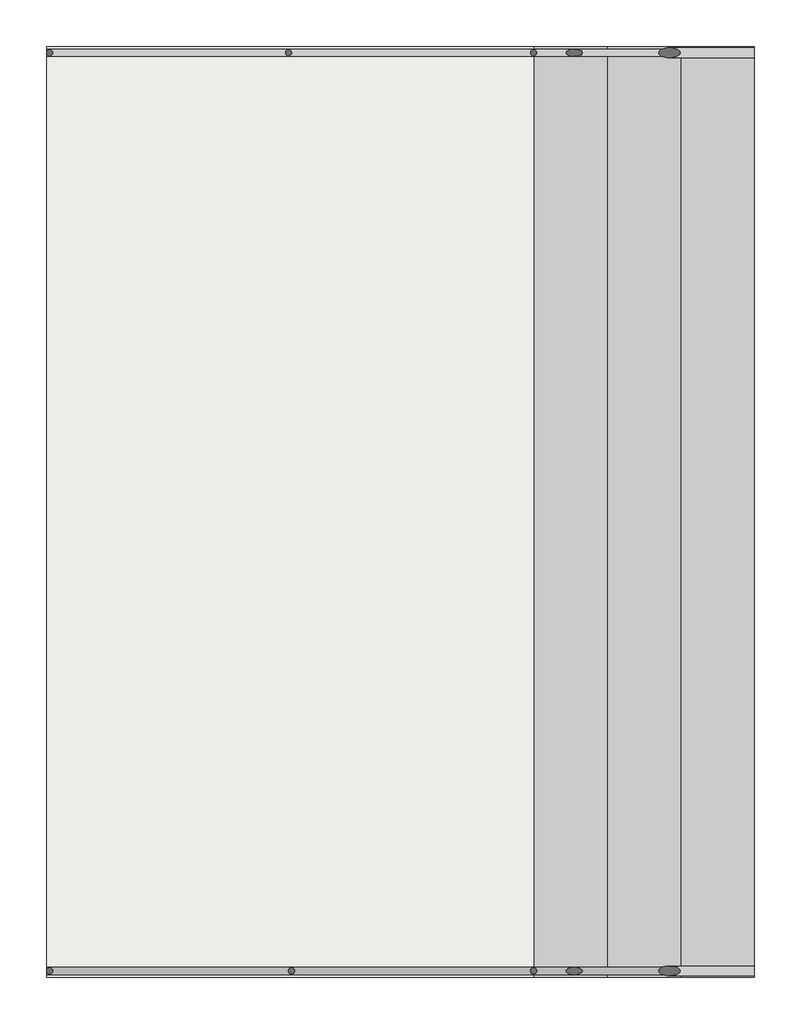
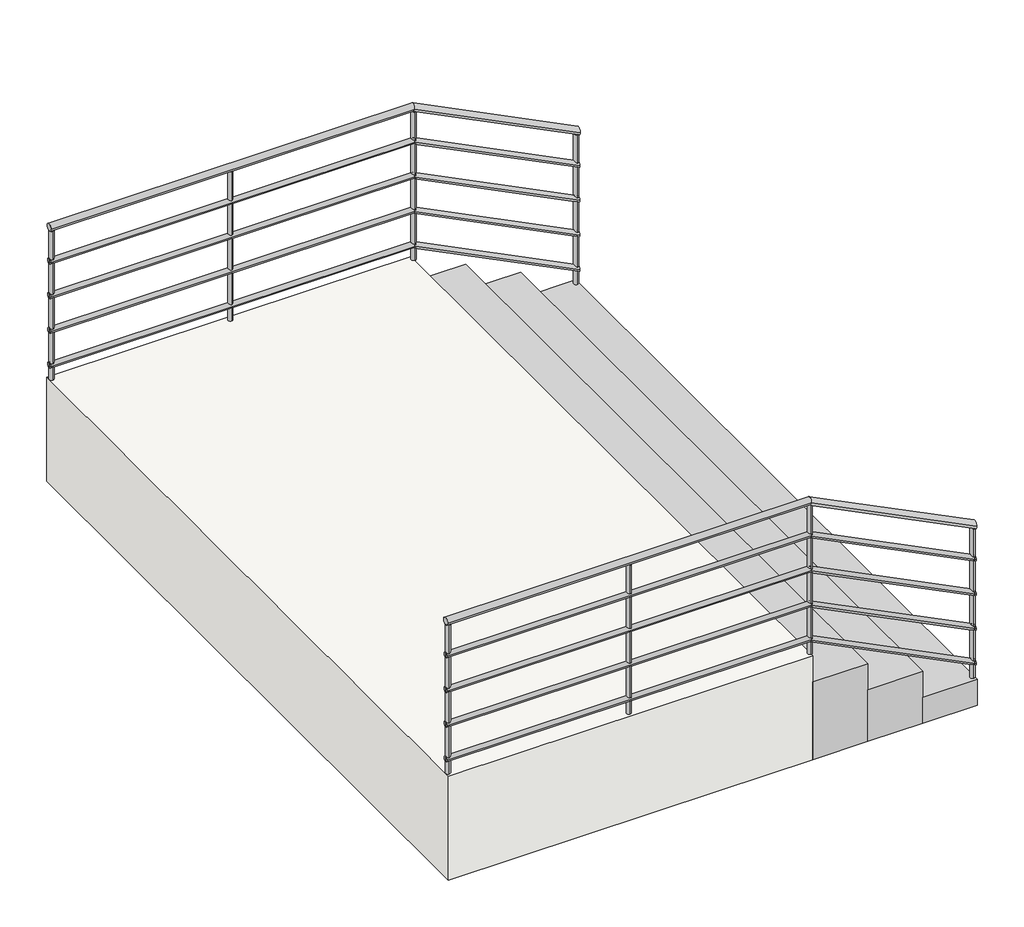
# One storey, part 2 of 2: 2 railings, 1 slab, 1 stair flight.
"""IFC4 building model written with IfcOpenShell, lengths in millimetres."""

from ifc_helpers import new_model, si_unit, point, frame, frame_2d, origin, place, context, project, spatial, circle_curve, ellipse_curve, trimmed, segment, composite_curve, outline, extrude, faceted_brep, element, save
from ifc_brep_helpers import plane_surface, cylinder_surface, advanced_brep

model = new_model("IFC4")

# Units and contexts
model_context = context("Model", 3, world=origin())
ifc_project = project(units=[si_unit("LENGTHUNIT", "METRE", prefix="MILLI")], contexts=[model_context])

# Site, building, storey
site = spatial("IfcSite", under=ifc_project)
building = spatial("IfcBuilding", under=site)
storey = spatial("IfcBuildingStorey", under=building, Name="标高 2", Elevation=2600.0)

# Railings
placement = place(None, origin())
element("IfcRailing", 1, ObjectType="900mm 圆管", at=placement, inside=storey, context=model_context, shape_type="SolidModel", body=[
    advanced_brep(
    [(13918.2324742, 1508.7274984, 4080.0), (13918.2324742, 1468.7274984, 4080.0), (15901.7924668, 1468.7274984, 4080.0), (15901.7924668, 1508.7274984, 4080.0), (16806.5138263, 1508.7274984, 3627.6393202), (16806.5138263, 1468.7274984, 3627.6393202)],
    [
        (0, 1, circle_curve(frame((13918.2324742, 1488.7274984, 4080.0), z_axis=(-1.0, 0.0, 0.0), x_axis=(0.0, -1.0, 0.0)), 20.0)),
        (1, 0, circle_curve(frame((13918.2324742, 1488.7274984, 4080.0), z_axis=(-1.0, 0.0, 0.0), x_axis=(0.0, -1.0, 0.0)), 20.0)),
        (2, 3, ellipse_curve(frame((15901.7924668, 1488.7274984, 4080.0), z_axis=(-0.9732489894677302, 0.0, 0.2297529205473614), x_axis=(0.22975292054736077, 0.0, 0.9732489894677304)), 20.5497259, 20.0)),
        (3, 0),
        (1, 2),
        (3, 2, ellipse_curve(frame((15901.7924668, 1488.7274984, 4080.0), z_axis=(-0.9732489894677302, 0.0, 0.2297529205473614), x_axis=(0.22975292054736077, 0.0, 0.9732489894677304)), 20.5497259, 20.0)),
        (4, 5, ellipse_curve(frame((16806.5138263, 1488.7274984, 3627.6393202), z_axis=(1.0, 0.0, 0.0), x_axis=(0.0, 0.0, -1.0)), 22.3606798, 20.0)),
        (5, 4, ellipse_curve(frame((16806.5138263, 1488.7274984, 3627.6393202), z_axis=(1.0, 0.0, 0.0), x_axis=(0.0, 0.0, -1.0)), 22.3606798, 20.0)),
        (4, 3),
        (2, 5),
    ],
    [
        plane_surface(frame((13918.2324742, 1488.7274984, 4100.0), z_axis=(-1.0, 0.0, 0.0), x_axis=(0.0, -1.0, 0.0))),
        cylinder_surface(frame((15906.5138263, 1488.7274984, 4080.0), z_axis=(1.0, 0.0, 0.0), x_axis=(0.0, -1.0, 0.0)), 20.0),
        plane_surface(frame((16806.5138263, 1488.7274984, 3650.0), z_axis=(1.0, 0.0, 0.0), x_axis=(0.0, -1.0, 0.0))),
        cylinder_surface(frame((16797.5695544, 1488.7274984, 3632.1114562), z_axis=(0.8944271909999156, 0.0, -0.44721359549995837), x_axis=(0.0, -1.0, 0.0)), 20.0),
    ],
    [
        (0, [[1, 2]]),
        (1, [[3, 4, -2, 5]]),
        (1, [[6, -5, -1, -4]]),
        (2, [[7, 8]]),
        (3, [[-7, 9, -3, 10]]),
        (3, [[-8, -10, -6, -9]]),
    ],
),
    advanced_brep(
    [(13918.2324742, 1503.7274984, 3885.0), (13918.2324742, 1473.7274984, 3885.0), (15906.5138263, 1503.7274984, 3885.0), (15906.5138263, 1473.7274984, 3885.0)],
    [
        (0, 1, circle_curve(frame((13918.2324742, 1488.7274984, 3885.0), z_axis=(-1.0, 0.0, 0.0), x_axis=(0.0, -1.0, 0.0)), 15.0)),
        (1, 0, circle_curve(frame((13918.2324742, 1488.7274984, 3885.0), z_axis=(-1.0, 0.0, 0.0), x_axis=(0.0, -1.0, 0.0)), 15.0)),
        (2, 3, circle_curve(frame((15906.5138263, 1488.7274984, 3885.0), z_axis=(1.0, 0.0, 0.0), x_axis=(0.0, -1.0, 0.0)), 15.0)),
        (3, 2, circle_curve(frame((15906.5138263, 1488.7274984, 3885.0), z_axis=(1.0, 0.0, 0.0), x_axis=(0.0, -1.0, 0.0)), 15.0)),
        (0, 2),
        (3, 1),
    ],
    [
        plane_surface(frame((13918.2324742, 1488.7274984, 3900.0), z_axis=(-1.0, 0.0, 0.0), x_axis=(0.0, 1.0, 0.0))),
        plane_surface(frame((15906.5138263, 1488.7274984, 3900.0), z_axis=(1.0, 0.0, 0.0), x_axis=(0.0, 1.0, 0.0))),
        cylinder_surface(frame((13918.2324742, 1488.7274984, 3885.0), z_axis=(-1.0, 0.0, 0.0), x_axis=(0.0, -1.0, 0.0)), 15.0),
    ],
    [
        (0, [[1, 2]]),
        (1, [[3, 4]]),
        (2, [[-1, 5, -4, 6]]),
        (2, [[-2, -6, -3, -5]]),
    ],
),
    advanced_brep(
    [(15906.5138263, 1503.7274984, 3883.2294902), (15906.5138263, 1473.7274984, 3883.2294902), (16806.5138263, 1503.7274984, 3433.2294902), (16806.5138263, 1473.7274984, 3433.2294902)],
    [
        (0, 1, ellipse_curve(frame((15906.5138263, 1488.7274984, 3883.2294902), z_axis=(-1.0, 0.0, 0.0), x_axis=(0.0, 0.0, 1.0)), 16.7705098, 15.0)),
        (1, 0, ellipse_curve(frame((15906.5138263, 1488.7274984, 3883.2294902), z_axis=(-1.0, 0.0, 0.0), x_axis=(0.0, 0.0, 1.0)), 16.7705098, 15.0)),
        (2, 3, ellipse_curve(frame((16806.5138263, 1488.7274984, 3433.2294902), z_axis=(1.0, 0.0, 0.0), x_axis=(0.0, 0.0, 1.0)), 16.7705098, 15.0)),
        (3, 2, ellipse_curve(frame((16806.5138263, 1488.7274984, 3433.2294902), z_axis=(1.0, 0.0, 0.0), x_axis=(0.0, 0.0, 1.0)), 16.7705098, 15.0)),
        (0, 2),
        (3, 1),
    ],
    [
        plane_surface(frame((15906.5138263, 1488.7274984, 3900.0), z_axis=(-1.0, 0.0, 0.0), x_axis=(0.0, 1.0, 0.0))),
        plane_surface(frame((16806.5138263, 1488.7274984, 3450.0), z_axis=(1.0, 0.0, 0.0), x_axis=(0.0, 1.0, 0.0))),
        cylinder_surface(frame((15899.8056224, 1488.7274984, 3886.5835921), z_axis=(-0.8944271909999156, 0.0, 0.44721359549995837), x_axis=(0.0, -1.0, 0.0)), 15.0),
    ],
    [
        (0, [[1, 2]]),
        (1, [[3, 4]]),
        (2, [[-1, 5, -4, 6]]),
        (2, [[-2, -6, -3, -5]]),
    ],
),
    advanced_brep(
    [(13918.2324742, 1503.7274984, 3685.0), (13918.2324742, 1473.7274984, 3685.0), (15906.5138263, 1503.7274984, 3685.0), (15906.5138263, 1473.7274984, 3685.0)],
    [
        (0, 1, circle_curve(frame((13918.2324742, 1488.7274984, 3685.0), z_axis=(-1.0, 0.0, 0.0), x_axis=(0.0, -1.0, 0.0)), 15.0)),
        (1, 0, circle_curve(frame((13918.2324742, 1488.7274984, 3685.0), z_axis=(-1.0, 0.0, 0.0), x_axis=(0.0, -1.0, 0.0)), 15.0)),
        (2, 3, circle_curve(frame((15906.5138263, 1488.7274984, 3685.0), z_axis=(1.0, 0.0, 0.0), x_axis=(0.0, -1.0, 0.0)), 15.0)),
        (3, 2, circle_curve(frame((15906.5138263, 1488.7274984, 3685.0), z_axis=(1.0, 0.0, 0.0), x_axis=(0.0, -1.0, 0.0)), 15.0)),
        (0, 2),
        (3, 1),
    ],
    [
        plane_surface(frame((13918.2324742, 1488.7274984, 3700.0), z_axis=(-1.0, 0.0, 0.0), x_axis=(0.0, 1.0, 0.0))),
        plane_surface(frame((15906.5138263, 1488.7274984, 3700.0), z_axis=(1.0, 0.0, 0.0), x_axis=(0.0, 1.0, 0.0))),
        cylinder_surface(frame((13918.2324742, 1488.7274984, 3685.0), z_axis=(-1.0, 0.0, 0.0), x_axis=(0.0, -1.0, 0.0)), 15.0),
    ],
    [
        (0, [[1, 2]]),
        (1, [[3, 4]]),
        (2, [[-1, 5, -4, 6]]),
        (2, [[-2, -6, -3, -5]]),
    ],
),
    advanced_brep(
    [(15906.5138263, 1503.7274984, 3683.2294902), (15906.5138263, 1473.7274984, 3683.2294902), (16806.5138263, 1503.7274984, 3233.2294902), (16806.5138263, 1473.7274984, 3233.2294902)],
    [
        (0, 1, ellipse_curve(frame((15906.5138263, 1488.7274984, 3683.2294902), z_axis=(-1.0, 0.0, 0.0), x_axis=(0.0, 0.0, 1.0)), 16.7705098, 15.0)),
        (1, 0, ellipse_curve(frame((15906.5138263, 1488.7274984, 3683.2294902), z_axis=(-1.0, 0.0, 0.0), x_axis=(0.0, 0.0, 1.0)), 16.7705098, 15.0)),
        (2, 3, ellipse_curve(frame((16806.5138263, 1488.7274984, 3233.2294902), z_axis=(1.0, 0.0, 0.0), x_axis=(0.0, 0.0, 1.0)), 16.7705098, 15.0)),
        (3, 2, ellipse_curve(frame((16806.5138263, 1488.7274984, 3233.2294902), z_axis=(1.0, 0.0, 0.0), x_axis=(0.0, 0.0, 1.0)), 16.7705098, 15.0)),
        (0, 2),
        (3, 1),
    ],
    [
        plane_surface(frame((15906.5138263, 1488.7274984, 3700.0), z_axis=(-1.0, 0.0, 0.0), x_axis=(0.0, 1.0, 0.0))),
        plane_surface(frame((16806.5138263, 1488.7274984, 3250.0), z_axis=(1.0, 0.0, 0.0), x_axis=(0.0, 1.0, 0.0))),
        cylinder_surface(frame((15899.8056224, 1488.7274984, 3686.5835921), z_axis=(-0.8944271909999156, 0.0, 0.44721359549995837), x_axis=(0.0, -1.0, 0.0)), 15.0),
    ],
    [
        (0, [[1, 2]]),
        (1, [[3, 4]]),
        (2, [[-1, 5, -4, 6]]),
        (2, [[-2, -6, -3, -5]]),
    ],
),
    advanced_brep(
    [(13918.2324742, 1503.7274984, 3485.0), (13918.2324742, 1473.7274984, 3485.0), (15906.5138263, 1503.7274984, 3485.0), (15906.5138263, 1473.7274984, 3485.0)],
    [
        (0, 1, circle_curve(frame((13918.2324742, 1488.7274984, 3485.0), z_axis=(-1.0, 0.0, 0.0), x_axis=(0.0, -1.0, 0.0)), 15.0)),
        (1, 0, circle_curve(frame((13918.2324742, 1488.7274984, 3485.0), z_axis=(-1.0, 0.0, 0.0), x_axis=(0.0, -1.0, 0.0)), 15.0)),
        (2, 3, circle_curve(frame((15906.5138263, 1488.7274984, 3485.0), z_axis=(1.0, 0.0, 0.0), x_axis=(0.0, -1.0, 0.0)), 15.0)),
        (3, 2, circle_curve(frame((15906.5138263, 1488.7274984, 3485.0), z_axis=(1.0, 0.0, 0.0), x_axis=(0.0, -1.0, 0.0)), 15.0)),
        (0, 2),
        (3, 1),
    ],
    [
        plane_surface(frame((13918.2324742, 1488.7274984, 3500.0), z_axis=(-1.0, 0.0, 0.0), x_axis=(0.0, 1.0, 0.0))),
        plane_surface(frame((15906.5138263, 1488.7274984, 3500.0), z_axis=(1.0, 0.0, 0.0), x_axis=(0.0, 1.0, 0.0))),
        cylinder_surface(frame((13918.2324742, 1488.7274984, 3485.0), z_axis=(-1.0, 0.0, 0.0), x_axis=(0.0, -1.0, 0.0)), 15.0),
    ],
    [
        (0, [[1, 2]]),
        (1, [[3, 4]]),
        (2, [[-1, 5, -4, 6]]),
        (2, [[-2, -6, -3, -5]]),
    ],
),
    advanced_brep(
    [(15906.5138263, 1503.7274984, 3483.2294902), (15906.5138263, 1473.7274984, 3483.2294902), (16806.5138263, 1503.7274984, 3033.2294902), (16806.5138263, 1473.7274984, 3033.2294902)],
    [
        (0, 1, ellipse_curve(frame((15906.5138263, 1488.7274984, 3483.2294902), z_axis=(-1.0, 0.0, 0.0), x_axis=(0.0, 0.0, 1.0)), 16.7705098, 15.0)),
        (1, 0, ellipse_curve(frame((15906.5138263, 1488.7274984, 3483.2294902), z_axis=(-1.0, 0.0, 0.0), x_axis=(0.0, 0.0, 1.0)), 16.7705098, 15.0)),
        (2, 3, ellipse_curve(frame((16806.5138263, 1488.7274984, 3033.2294902), z_axis=(1.0, 0.0, 0.0), x_axis=(0.0, 0.0, 1.0)), 16.7705098, 15.0)),
        (3, 2, ellipse_curve(frame((16806.5138263, 1488.7274984, 3033.2294902), z_axis=(1.0, 0.0, 0.0), x_axis=(0.0, 0.0, 1.0)), 16.7705098, 15.0)),
        (0, 2),
        (3, 1),
    ],
    [
        plane_surface(frame((15906.5138263, 1488.7274984, 3500.0), z_axis=(-1.0, 0.0, 0.0), x_axis=(0.0, 1.0, 0.0))),
        plane_surface(frame((16806.5138263, 1488.7274984, 3050.0), z_axis=(1.0, 0.0, 0.0), x_axis=(0.0, 1.0, 0.0))),
        cylinder_surface(frame((15899.8056224, 1488.7274984, 3486.5835921), z_axis=(-0.8944271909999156, 0.0, 0.44721359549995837), x_axis=(0.0, -1.0, 0.0)), 15.0),
    ],
    [
        (0, [[1, 2]]),
        (1, [[3, 4]]),
        (2, [[-1, 5, -4, 6]]),
        (2, [[-2, -6, -3, -5]]),
    ],
),
    advanced_brep(
    [(13918.2324742, 1503.7274984, 3285.0), (13918.2324742, 1473.7274984, 3285.0), (15906.5138263, 1503.7274984, 3285.0), (15906.5138263, 1473.7274984, 3285.0)],
    [
        (0, 1, circle_curve(frame((13918.2324742, 1488.7274984, 3285.0), z_axis=(-1.0, 0.0, 0.0), x_axis=(0.0, -1.0, 0.0)), 15.0)),
        (1, 0, circle_curve(frame((13918.2324742, 1488.7274984, 3285.0), z_axis=(-1.0, 0.0, 0.0), x_axis=(0.0, -1.0, 0.0)), 15.0)),
        (2, 3, circle_curve(frame((15906.5138263, 1488.7274984, 3285.0), z_axis=(1.0, 0.0, 0.0), x_axis=(0.0, -1.0, 0.0)), 15.0)),
        (3, 2, circle_curve(frame((15906.5138263, 1488.7274984, 3285.0), z_axis=(1.0, 0.0, 0.0), x_axis=(0.0, -1.0, 0.0)), 15.0)),
        (0, 2),
        (3, 1),
    ],
    [
        plane_surface(frame((13918.2324742, 1488.7274984, 3300.0), z_axis=(-1.0, 0.0, 0.0), x_axis=(0.0, 1.0, 0.0))),
        plane_surface(frame((15906.5138263, 1488.7274984, 3300.0), z_axis=(1.0, 0.0, 0.0), x_axis=(0.0, 1.0, 0.0))),
        cylinder_surface(frame((13918.2324742, 1488.7274984, 3285.0), z_axis=(-1.0, 0.0, 0.0), x_axis=(0.0, -1.0, 0.0)), 15.0),
    ],
    [
        (0, [[1, 2]]),
        (1, [[3, 4]]),
        (2, [[-1, 5, -4, 6]]),
        (2, [[-2, -6, -3, -5]]),
    ],
),
    advanced_brep(
    [(15906.5138263, 1503.7274984, 3283.2294902), (15906.5138263, 1473.7274984, 3283.2294902), (16806.5138263, 1503.7274984, 2833.2294902), (16806.5138263, 1473.7274984, 2833.2294902)],
    [
        (0, 1, ellipse_curve(frame((15906.5138263, 1488.7274984, 3283.2294902), z_axis=(-1.0, 0.0, 0.0), x_axis=(0.0, 0.0, 1.0)), 16.7705098, 15.0)),
        (1, 0, ellipse_curve(frame((15906.5138263, 1488.7274984, 3283.2294902), z_axis=(-1.0, 0.0, 0.0), x_axis=(0.0, 0.0, 1.0)), 16.7705098, 15.0)),
        (2, 3, ellipse_curve(frame((16806.5138263, 1488.7274984, 2833.2294902), z_axis=(1.0, 0.0, 0.0), x_axis=(0.0, 0.0, 1.0)), 16.7705098, 15.0)),
        (3, 2, ellipse_curve(frame((16806.5138263, 1488.7274984, 2833.2294902), z_axis=(1.0, 0.0, 0.0), x_axis=(0.0, 0.0, 1.0)), 16.7705098, 15.0)),
        (0, 2),
        (3, 1),
    ],
    [
        plane_surface(frame((15906.5138263, 1488.7274984, 3300.0), z_axis=(-1.0, 0.0, 0.0), x_axis=(0.0, 1.0, 0.0))),
        plane_surface(frame((16806.5138263, 1488.7274984, 2850.0), z_axis=(1.0, 0.0, 0.0), x_axis=(0.0, 1.0, 0.0))),
        cylinder_surface(frame((15899.8056224, 1488.7274984, 3286.5835921), z_axis=(-0.8944271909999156, 0.0, 0.44721359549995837), x_axis=(0.0, -1.0, 0.0)), 15.0),
    ],
    [
        (0, [[1, 2]]),
        (1, [[3, 4]]),
        (2, [[-1, 5, -4, 6]]),
        (2, [[-2, -6, -3, -5]]),
    ],
),
    extrude(outline(composite_curve([segment(trimmed(circle_curve(frame_2d((14918.2324742, 1488.7274984)), 12.5), [point((14918.2324742, 1501.2274984))], [point((14918.2324742, 1476.2274984))], False, "CARTESIAN"), True, "CONTINUOUS"), segment(trimmed(circle_curve(frame_2d((14918.2324742, 1488.7274984)), 12.5), [point((14918.2324742, 1476.2274984))], [point((14918.2324742, 1501.2274984))], False, "CARTESIAN"), True, "CONTINUOUS")], self_intersect=False)), frame((0.0, 0.0, 3200.0), z_axis=(0.0, 0.0, 1.0), x_axis=(1.0, 0.0, 0.0)), (0.0, 0.0, 1.0), 860.0),
    extrude(outline(composite_curve([segment(trimmed(circle_curve(frame_2d((15906.5138263, 1488.7274984)), 12.5), [point((15906.5138263, 1501.2274984))], [point((15906.5138263, 1476.2274984))], False, "CARTESIAN"), True, "CONTINUOUS"), segment(trimmed(circle_curve(frame_2d((15906.5138263, 1488.7274984)), 12.5), [point((15906.5138263, 1476.2274984))], [point((15906.5138263, 1501.2274984))], False, "CARTESIAN"), True, "CONTINUOUS")], self_intersect=False)), frame((0.0, 0.0, 3200.0), z_axis=(0.0, 0.0, 1.0), x_axis=(1.0, 0.0, 0.0)), (0.0, 0.0, 1.0), 860.0),
    advanced_brep(
    [(16794.0138263, 1476.2274984, 3611.5286405), (16794.0138263, 1476.2274984, 2750.0), (16794.0138263, 1501.2274984, 2750.0), (16794.0138263, 1501.2274984, 3611.5286405)],
    [
        (0, 1),
        (1, 2, circle_curve(frame((16794.0138263, 1488.7274984, 2750.0), z_axis=(0.0, 0.0, 1.0), x_axis=(0.0, 1.0, 0.0)), 12.5)),
        (2, 3),
        (3, 0, ellipse_curve(frame((16794.0138263, 1488.7274984, 3611.5286405), z_axis=(-0.44721359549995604, 0.0, -0.894427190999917), x_axis=(-0.8944271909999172, 0.0, 0.4472135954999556)), 13.9754249, 12.5)),
        (0, 3, ellipse_curve(frame((16794.0138263, 1488.7274984, 3611.5286405), z_axis=(-0.44721359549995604, 0.0, -0.894427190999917), x_axis=(-0.8944271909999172, 0.0, 0.4472135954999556)), 13.9754249, 12.5)),
        (2, 1, circle_curve(frame((16794.0138263, 1488.7274984, 2750.0), z_axis=(0.0, 0.0, 1.0), x_axis=(0.0, 1.0, 0.0)), 12.5)),
    ],
    [
        cylinder_surface(frame((16794.0138263, 1488.7274984, 2650.0), z_axis=(0.0, 0.0, 1.0), x_axis=(0.0, 1.0, 0.0)), 12.5),
        plane_surface(frame((16819.0138263, 1513.7274984, 3599.0286405), z_axis=(0.44721359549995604, 0.0, 0.894427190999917), x_axis=(0.0, -1.0, 0.0))),
        plane_surface(frame((16769.0138263, 1513.7274984, 2750.0), z_axis=(0.0, 0.0, -1.0), x_axis=(0.0, -1.0, 0.0))),
    ],
    [
        (0, [[1, 2, 3, 4]]),
        (0, [[-1, 5, -3, 6]]),
        (1, [[-4, -5]]),
        (2, [[-2, -6]]),
    ],
),
    extrude(outline(composite_curve([segment(trimmed(circle_curve(frame_2d((13930.7324742, 1488.7274984)), 12.5), [point((13930.7324742, 1501.2274984))], [point((13930.7324742, 1476.2274984))], False, "CARTESIAN"), True, "CONTINUOUS"), segment(trimmed(circle_curve(frame_2d((13930.7324742, 1488.7274984)), 12.5), [point((13930.7324742, 1476.2274984))], [point((13930.7324742, 1501.2274984))], False, "CARTESIAN"), True, "CONTINUOUS")], self_intersect=False)), frame((0.0, 0.0, 3200.0), z_axis=(0.0, 0.0, 1.0), x_axis=(1.0, 0.0, 0.0)), (0.0, 0.0, 1.0), 860.0),
])
element("IfcRailing", 2, ObjectType="900mm 圆管", at=placement, inside=storey, context=model_context, shape_type="SolidModel", body=[
    advanced_brep(
    [(16806.5138263, 5257.0397627, 3627.6393202), (16806.5138263, 5217.0397627, 3627.6393202), (15901.7924668, 5257.0397627, 4080.0), (15901.7924668, 5217.0397627, 4080.0), (13918.2324742, 5257.0397627, 4080.0), (13918.2324742, 5217.0397627, 4080.0)],
    [
        (0, 1, ellipse_curve(frame((16806.5138263, 5237.0397627, 3627.6393202), z_axis=(1.0, 0.0, 0.0), x_axis=(0.0, 0.0, -1.0)), 22.3606798, 20.0)),
        (1, 0, ellipse_curve(frame((16806.5138263, 5237.0397627, 3627.6393202), z_axis=(1.0, 0.0, 0.0), x_axis=(0.0, 0.0, -1.0)), 22.3606798, 20.0)),
        (0, 2),
        (2, 3, ellipse_curve(frame((15901.7924668, 5237.0397627, 4080.0), z_axis=(0.9732489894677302, 0.0, -0.22975292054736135), x_axis=(-0.22975292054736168, 0.0, -0.9732489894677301)), 20.5497259, 20.0)),
        (3, 1),
        (3, 2, ellipse_curve(frame((15901.7924668, 5237.0397627, 4080.0), z_axis=(0.9732489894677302, 0.0, -0.22975292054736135), x_axis=(-0.22975292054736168, 0.0, -0.9732489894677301)), 20.5497259, 20.0)),
        (4, 5, circle_curve(frame((13918.2324742, 5237.0397627, 4080.0), z_axis=(-1.0, 0.0, 0.0), x_axis=(0.0, -1.0, 0.0)), 20.0)),
        (5, 4, circle_curve(frame((13918.2324742, 5237.0397627, 4080.0), z_axis=(-1.0, 0.0, 0.0), x_axis=(0.0, -1.0, 0.0)), 20.0)),
        (2, 4),
        (5, 3),
    ],
    [
        plane_surface(frame((16806.5138263, 5237.0397627, 3650.0), z_axis=(1.0, 0.0, 0.0), x_axis=(0.0, -1.0, 0.0))),
        cylinder_surface(frame((16797.5695544, 5237.0397627, 3632.1114562), z_axis=(0.8944271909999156, 0.0, -0.4472135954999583), x_axis=(0.0, -1.0, 0.0)), 20.0),
        plane_surface(frame((13918.2324742, 5237.0397627, 4100.0), z_axis=(-1.0, 0.0, 0.0), x_axis=(0.0, -1.0, 0.0))),
        cylinder_surface(frame((15906.5138263, 5237.0397627, 4080.0), z_axis=(1.0, 0.0, 0.0), x_axis=(0.0, -1.0, 0.0)), 20.0),
    ],
    [
        (0, [[1, 2]]),
        (1, [[-1, 3, 4, 5]]),
        (1, [[-2, -5, 6, -3]]),
        (2, [[7, 8]]),
        (3, [[-4, 9, -8, 10]]),
        (3, [[-6, -10, -7, -9]]),
    ],
),
    advanced_brep(
    [(16806.5138263, 5222.0397627, 3433.2294902), (16806.5138263, 5252.0397627, 3433.2294902), (15906.5138263, 5222.0397627, 3883.2294902), (15906.5138263, 5252.0397627, 3883.2294902)],
    [
        (0, 1, ellipse_curve(frame((16806.5138263, 5237.0397627, 3433.2294902), z_axis=(1.0, 0.0, 0.0), x_axis=(0.0, 0.0, -1.0)), 16.7705098, 15.0)),
        (1, 0, ellipse_curve(frame((16806.5138263, 5237.0397627, 3433.2294902), z_axis=(1.0, 0.0, 0.0), x_axis=(0.0, 0.0, -1.0)), 16.7705098, 15.0)),
        (2, 3, ellipse_curve(frame((15906.5138263, 5237.0397627, 3883.2294902), z_axis=(-1.0, 0.0, 0.0), x_axis=(0.0, 0.0, -1.0)), 16.7705098, 15.0)),
        (3, 2, ellipse_curve(frame((15906.5138263, 5237.0397627, 3883.2294902), z_axis=(-1.0, 0.0, 0.0), x_axis=(0.0, 0.0, -1.0)), 16.7705098, 15.0)),
        (0, 2),
        (3, 1),
    ],
    [
        plane_surface(frame((16806.5138263, 5237.0397627, 3450.0), z_axis=(1.0, 0.0, 0.0), x_axis=(0.0, -1.0, 0.0))),
        plane_surface(frame((15906.5138263, 5237.0397627, 3900.0), z_axis=(-1.0, 0.0, 0.0), x_axis=(0.0, -1.0, 0.0))),
        cylinder_surface(frame((16799.8056224, 5237.0397627, 3436.5835921), z_axis=(0.8944271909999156, 0.0, -0.4472135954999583), x_axis=(0.0, 1.0, 0.0)), 15.0),
    ],
    [
        (0, [[1, 2]]),
        (1, [[3, 4]]),
        (2, [[-1, 5, -4, 6]]),
        (2, [[-2, -6, -3, -5]]),
    ],
),
    advanced_brep(
    [(15906.5138263, 5222.0397627, 3885.0), (15906.5138263, 5252.0397627, 3885.0), (13918.2324742, 5222.0397627, 3885.0), (13918.2324742, 5252.0397627, 3885.0)],
    [
        (0, 1, circle_curve(frame((15906.5138263, 5237.0397627, 3885.0), z_axis=(1.0, 0.0, 0.0), x_axis=(0.0, 1.0, 0.0)), 15.0)),
        (1, 0, circle_curve(frame((15906.5138263, 5237.0397627, 3885.0), z_axis=(1.0, 0.0, 0.0), x_axis=(0.0, 1.0, 0.0)), 15.0)),
        (2, 3, circle_curve(frame((13918.2324742, 5237.0397627, 3885.0), z_axis=(-1.0, 0.0, 0.0), x_axis=(0.0, 1.0, 0.0)), 15.0)),
        (3, 2, circle_curve(frame((13918.2324742, 5237.0397627, 3885.0), z_axis=(-1.0, 0.0, 0.0), x_axis=(0.0, 1.0, 0.0)), 15.0)),
        (0, 2),
        (3, 1),
    ],
    [
        plane_surface(frame((15906.5138263, 5237.0397627, 3900.0), z_axis=(1.0, 0.0, 0.0), x_axis=(0.0, -1.0, 0.0))),
        plane_surface(frame((13918.2324742, 5237.0397627, 3900.0), z_axis=(-1.0, 0.0, 0.0), x_axis=(0.0, -1.0, 0.0))),
        cylinder_surface(frame((15906.5138263, 5237.0397627, 3885.0), z_axis=(1.0, 0.0, 0.0), x_axis=(0.0, 1.0, 0.0)), 15.0),
    ],
    [
        (0, [[1, 2]]),
        (1, [[3, 4]]),
        (2, [[-1, 5, -4, 6]]),
        (2, [[-2, -6, -3, -5]]),
    ],
),
    advanced_brep(
    [(16806.5138263, 5222.0397627, 3233.2294902), (16806.5138263, 5252.0397627, 3233.2294902), (15906.5138263, 5222.0397627, 3683.2294902), (15906.5138263, 5252.0397627, 3683.2294902)],
    [
        (0, 1, ellipse_curve(frame((16806.5138263, 5237.0397627, 3233.2294902), z_axis=(1.0, 0.0, 0.0), x_axis=(0.0, 0.0, -1.0)), 16.7705098, 15.0)),
        (1, 0, ellipse_curve(frame((16806.5138263, 5237.0397627, 3233.2294902), z_axis=(1.0, 0.0, 0.0), x_axis=(0.0, 0.0, -1.0)), 16.7705098, 15.0)),
        (2, 3, ellipse_curve(frame((15906.5138263, 5237.0397627, 3683.2294902), z_axis=(-1.0, 0.0, 0.0), x_axis=(0.0, 0.0, -1.0)), 16.7705098, 15.0)),
        (3, 2, ellipse_curve(frame((15906.5138263, 5237.0397627, 3683.2294902), z_axis=(-1.0, 0.0, 0.0), x_axis=(0.0, 0.0, -1.0)), 16.7705098, 15.0)),
        (0, 2),
        (3, 1),
    ],
    [
        plane_surface(frame((16806.5138263, 5237.0397627, 3250.0), z_axis=(1.0, 0.0, 0.0), x_axis=(0.0, -1.0, 0.0))),
        plane_surface(frame((15906.5138263, 5237.0397627, 3700.0), z_axis=(-1.0, 0.0, 0.0), x_axis=(0.0, -1.0, 0.0))),
        cylinder_surface(frame((16799.8056224, 5237.0397627, 3236.5835921), z_axis=(0.8944271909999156, 0.0, -0.4472135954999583), x_axis=(0.0, 1.0, 0.0)), 15.0),
    ],
    [
        (0, [[1, 2]]),
        (1, [[3, 4]]),
        (2, [[-1, 5, -4, 6]]),
        (2, [[-2, -6, -3, -5]]),
    ],
),
    advanced_brep(
    [(15906.5138263, 5222.0397627, 3685.0), (15906.5138263, 5252.0397627, 3685.0), (13918.2324742, 5222.0397627, 3685.0), (13918.2324742, 5252.0397627, 3685.0)],
    [
        (0, 1, circle_curve(frame((15906.5138263, 5237.0397627, 3685.0), z_axis=(1.0, 0.0, 0.0), x_axis=(0.0, 1.0, 0.0)), 15.0)),
        (1, 0, circle_curve(frame((15906.5138263, 5237.0397627, 3685.0), z_axis=(1.0, 0.0, 0.0), x_axis=(0.0, 1.0, 0.0)), 15.0)),
        (2, 3, circle_curve(frame((13918.2324742, 5237.0397627, 3685.0), z_axis=(-1.0, 0.0, 0.0), x_axis=(0.0, 1.0, 0.0)), 15.0)),
        (3, 2, circle_curve(frame((13918.2324742, 5237.0397627, 3685.0), z_axis=(-1.0, 0.0, 0.0), x_axis=(0.0, 1.0, 0.0)), 15.0)),
        (0, 2),
        (3, 1),
    ],
    [
        plane_surface(frame((15906.5138263, 5237.0397627, 3700.0), z_axis=(1.0, 0.0, 0.0), x_axis=(0.0, -1.0, 0.0))),
        plane_surface(frame((13918.2324742, 5237.0397627, 3700.0), z_axis=(-1.0, 0.0, 0.0), x_axis=(0.0, -1.0, 0.0))),
        cylinder_surface(frame((15906.5138263, 5237.0397627, 3685.0), z_axis=(1.0, 0.0, 0.0), x_axis=(0.0, 1.0, 0.0)), 15.0),
    ],
    [
        (0, [[1, 2]]),
        (1, [[3, 4]]),
        (2, [[-1, 5, -4, 6]]),
        (2, [[-2, -6, -3, -5]]),
    ],
),
    advanced_brep(
    [(16806.5138263, 5222.0397627, 3033.2294902), (16806.5138263, 5252.0397627, 3033.2294902), (15906.5138263, 5222.0397627, 3483.2294902), (15906.5138263, 5252.0397627, 3483.2294902)],
    [
        (0, 1, ellipse_curve(frame((16806.5138263, 5237.0397627, 3033.2294902), z_axis=(1.0, 0.0, 0.0), x_axis=(0.0, 0.0, -1.0)), 16.7705098, 15.0)),
        (1, 0, ellipse_curve(frame((16806.5138263, 5237.0397627, 3033.2294902), z_axis=(1.0, 0.0, 0.0), x_axis=(0.0, 0.0, -1.0)), 16.7705098, 15.0)),
        (2, 3, ellipse_curve(frame((15906.5138263, 5237.0397627, 3483.2294902), z_axis=(-1.0, 0.0, 0.0), x_axis=(0.0, 0.0, -1.0)), 16.7705098, 15.0)),
        (3, 2, ellipse_curve(frame((15906.5138263, 5237.0397627, 3483.2294902), z_axis=(-1.0, 0.0, 0.0), x_axis=(0.0, 0.0, -1.0)), 16.7705098, 15.0)),
        (0, 2),
        (3, 1),
    ],
    [
        plane_surface(frame((16806.5138263, 5237.0397627, 3050.0), z_axis=(1.0, 0.0, 0.0), x_axis=(0.0, -1.0, 0.0))),
        plane_surface(frame((15906.5138263, 5237.0397627, 3500.0), z_axis=(-1.0, 0.0, 0.0), x_axis=(0.0, -1.0, 0.0))),
        cylinder_surface(frame((16799.8056224, 5237.0397627, 3036.5835921), z_axis=(0.8944271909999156, 0.0, -0.4472135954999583), x_axis=(0.0, 1.0, 0.0)), 15.0),
    ],
    [
        (0, [[1, 2]]),
        (1, [[3, 4]]),
        (2, [[-1, 5, -4, 6]]),
        (2, [[-2, -6, -3, -5]]),
    ],
),
    advanced_brep(
    [(15906.5138263, 5222.0397627, 3485.0), (15906.5138263, 5252.0397627, 3485.0), (13918.2324742, 5222.0397627, 3485.0), (13918.2324742, 5252.0397627, 3485.0)],
    [
        (0, 1, circle_curve(frame((15906.5138263, 5237.0397627, 3485.0), z_axis=(1.0, 0.0, 0.0), x_axis=(0.0, 1.0, 0.0)), 15.0)),
        (1, 0, circle_curve(frame((15906.5138263, 5237.0397627, 3485.0), z_axis=(1.0, 0.0, 0.0), x_axis=(0.0, 1.0, 0.0)), 15.0)),
        (2, 3, circle_curve(frame((13918.2324742, 5237.0397627, 3485.0), z_axis=(-1.0, 0.0, 0.0), x_axis=(0.0, 1.0, 0.0)), 15.0)),
        (3, 2, circle_curve(frame((13918.2324742, 5237.0397627, 3485.0), z_axis=(-1.0, 0.0, 0.0), x_axis=(0.0, 1.0, 0.0)), 15.0)),
        (0, 2),
        (3, 1),
    ],
    [
        plane_surface(frame((15906.5138263, 5237.0397627, 3500.0), z_axis=(1.0, 0.0, 0.0), x_axis=(0.0, -1.0, 0.0))),
        plane_surface(frame((13918.2324742, 5237.0397627, 3500.0), z_axis=(-1.0, 0.0, 0.0), x_axis=(0.0, -1.0, 0.0))),
        cylinder_surface(frame((15906.5138263, 5237.0397627, 3485.0), z_axis=(1.0, 0.0, 0.0), x_axis=(0.0, 1.0, 0.0)), 15.0),
    ],
    [
        (0, [[1, 2]]),
        (1, [[3, 4]]),
        (2, [[-1, 5, -4, 6]]),
        (2, [[-2, -6, -3, -5]]),
    ],
),
    advanced_brep(
    [(16806.5138263, 5222.0397627, 2833.2294902), (16806.5138263, 5252.0397627, 2833.2294902), (15906.5138263, 5222.0397627, 3283.2294902), (15906.5138263, 5252.0397627, 3283.2294902)],
    [
        (0, 1, ellipse_curve(frame((16806.5138263, 5237.0397627, 2833.2294902), z_axis=(1.0, 0.0, 0.0), x_axis=(0.0, 0.0, -1.0)), 16.7705098, 15.0)),
        (1, 0, ellipse_curve(frame((16806.5138263, 5237.0397627, 2833.2294902), z_axis=(1.0, 0.0, 0.0), x_axis=(0.0, 0.0, -1.0)), 16.7705098, 15.0)),
        (2, 3, ellipse_curve(frame((15906.5138263, 5237.0397627, 3283.2294902), z_axis=(-1.0, 0.0, 0.0), x_axis=(0.0, 0.0, -1.0)), 16.7705098, 15.0)),
        (3, 2, ellipse_curve(frame((15906.5138263, 5237.0397627, 3283.2294902), z_axis=(-1.0, 0.0, 0.0), x_axis=(0.0, 0.0, -1.0)), 16.7705098, 15.0)),
        (0, 2),
        (3, 1),
    ],
    [
        plane_surface(frame((16806.5138263, 5237.0397627, 2850.0), z_axis=(1.0, 0.0, 0.0), x_axis=(0.0, -1.0, 0.0))),
        plane_surface(frame((15906.5138263, 5237.0397627, 3300.0), z_axis=(-1.0, 0.0, 0.0), x_axis=(0.0, -1.0, 0.0))),
        cylinder_surface(frame((16799.8056224, 5237.0397627, 2836.5835921), z_axis=(0.8944271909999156, 0.0, -0.4472135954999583), x_axis=(0.0, 1.0, 0.0)), 15.0),
    ],
    [
        (0, [[1, 2]]),
        (1, [[3, 4]]),
        (2, [[-1, 5, -4, 6]]),
        (2, [[-2, -6, -3, -5]]),
    ],
),
    advanced_brep(
    [(15906.5138263, 5222.0397627, 3285.0), (15906.5138263, 5252.0397627, 3285.0), (13918.2324742, 5222.0397627, 3285.0), (13918.2324742, 5252.0397627, 3285.0)],
    [
        (0, 1, circle_curve(frame((15906.5138263, 5237.0397627, 3285.0), z_axis=(1.0, 0.0, 0.0), x_axis=(0.0, 1.0, 0.0)), 15.0)),
        (1, 0, circle_curve(frame((15906.5138263, 5237.0397627, 3285.0), z_axis=(1.0, 0.0, 0.0), x_axis=(0.0, 1.0, 0.0)), 15.0)),
        (2, 3, circle_curve(frame((13918.2324742, 5237.0397627, 3285.0), z_axis=(-1.0, 0.0, 0.0), x_axis=(0.0, 1.0, 0.0)), 15.0)),
        (3, 2, circle_curve(frame((13918.2324742, 5237.0397627, 3285.0), z_axis=(-1.0, 0.0, 0.0), x_axis=(0.0, 1.0, 0.0)), 15.0)),
        (0, 2),
        (3, 1),
    ],
    [
        plane_surface(frame((15906.5138263, 5237.0397627, 3300.0), z_axis=(1.0, 0.0, 0.0), x_axis=(0.0, -1.0, 0.0))),
        plane_surface(frame((13918.2324742, 5237.0397627, 3300.0), z_axis=(-1.0, 0.0, 0.0), x_axis=(0.0, -1.0, 0.0))),
        cylinder_surface(frame((15906.5138263, 5237.0397627, 3285.0), z_axis=(1.0, 0.0, 0.0), x_axis=(0.0, 1.0, 0.0)), 15.0),
    ],
    [
        (0, [[1, 2]]),
        (1, [[3, 4]]),
        (2, [[-1, 5, -4, 6]]),
        (2, [[-2, -6, -3, -5]]),
    ],
),
    extrude(outline(composite_curve([segment(trimmed(circle_curve(frame_2d((14906.5138263, 5237.0397627)), 12.5), [point((14906.5138263, 5224.5397627))], [point((14906.5138263, 5249.5397627))], False, "CARTESIAN"), True, "CONTINUOUS"), segment(trimmed(circle_curve(frame_2d((14906.5138263, 5237.0397627)), 12.5), [point((14906.5138263, 5249.5397627))], [point((14906.5138263, 5224.5397627))], False, "CARTESIAN"), True, "CONTINUOUS")], self_intersect=False)), frame((0.0, 0.0, 3200.0), z_axis=(0.0, 0.0, 1.0), x_axis=(1.0, 0.0, 0.0)), (0.0, 0.0, 1.0), 860.0),
    advanced_brep(
    [(15906.5138263, 5249.5397627, 4055.2786405), (15906.5138263, 5249.5397627, 3200.0), (15906.5138263, 5224.5397627, 3200.0), (15906.5138263, 5224.5397627, 4055.2786405)],
    [
        (0, 1),
        (1, 2, circle_curve(frame((15906.5138263, 5237.0397627, 3200.0), z_axis=(0.0, 0.0, 1.0), x_axis=(0.0, -1.0, 0.0)), 12.5)),
        (2, 3),
        (3, 0, ellipse_curve(frame((15906.5138263, 5237.0397627, 4055.2786405), z_axis=(-0.447213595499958, 0.0, -0.894427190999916), x_axis=(-0.8944271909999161, 0.0, 0.4472135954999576)), 13.9754249, 12.5)),
        (0, 3, ellipse_curve(frame((15906.5138263, 5237.0397627, 4055.2786405), z_axis=(-0.447213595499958, 0.0, -0.894427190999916), x_axis=(-0.8944271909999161, 0.0, 0.4472135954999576)), 13.9754249, 12.5)),
        (2, 1, circle_curve(frame((15906.5138263, 5237.0397627, 3200.0), z_axis=(0.0, 0.0, 1.0), x_axis=(0.0, -1.0, 0.0)), 12.5)),
    ],
    [
        cylinder_surface(frame((15906.5138263, 5237.0397627, 3100.0), z_axis=(0.0, 0.0, 1.0), x_axis=(0.0, -1.0, 0.0)), 12.5),
        plane_surface(frame((15881.5138263, 5212.0397627, 4067.7786405), z_axis=(0.447213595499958, 0.0, 0.894427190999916), x_axis=(0.0, 1.0, 0.0))),
        plane_surface(frame((15931.5138263, 5212.0397627, 3200.0), z_axis=(0.0, 0.0, -1.0), x_axis=(0.0, 1.0, 0.0))),
    ],
    [
        (0, [[1, 2, 3, 4]]),
        (0, [[-1, 5, -3, 6]]),
        (1, [[-4, -5]]),
        (2, [[-2, -6]]),
    ],
),
    extrude(outline(composite_curve([segment(trimmed(circle_curve(frame_2d((13930.7324742, 5237.0397627)), 12.5), [point((13930.7324742, 5224.5397627))], [point((13930.7324742, 5249.5397627))], False, "CARTESIAN"), True, "CONTINUOUS"), segment(trimmed(circle_curve(frame_2d((13930.7324742, 5237.0397627)), 12.5), [point((13930.7324742, 5249.5397627))], [point((13930.7324742, 5224.5397627))], False, "CARTESIAN"), True, "CONTINUOUS")], self_intersect=False)), frame((0.0, 0.0, 3200.0), z_axis=(0.0, 0.0, 1.0), x_axis=(1.0, 0.0, 0.0)), (0.0, 0.0, 1.0), 860.0),
    advanced_brep(
    [(16794.0138263, 5249.5397627, 3611.5286405), (16794.0138263, 5249.5397627, 2750.0), (16794.0138263, 5224.5397627, 2750.0), (16794.0138263, 5224.5397627, 3611.5286405)],
    [
        (0, 1),
        (1, 2, circle_curve(frame((16794.0138263, 5237.0397627, 2750.0), z_axis=(0.0, 0.0, 1.0), x_axis=(0.0, -1.0, 0.0)), 12.5)),
        (2, 3),
        (3, 0, ellipse_curve(frame((16794.0138263, 5237.0397627, 3611.5286405), z_axis=(-0.447213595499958, 0.0, -0.894427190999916), x_axis=(-0.8944271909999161, 0.0, 0.4472135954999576)), 13.9754249, 12.5)),
        (0, 3, ellipse_curve(frame((16794.0138263, 5237.0397627, 3611.5286405), z_axis=(-0.447213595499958, 0.0, -0.894427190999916), x_axis=(-0.8944271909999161, 0.0, 0.4472135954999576)), 13.9754249, 12.5)),
        (2, 1, circle_curve(frame((16794.0138263, 5237.0397627, 2750.0), z_axis=(0.0, 0.0, 1.0), x_axis=(0.0, -1.0, 0.0)), 12.5)),
    ],
    [
        cylinder_surface(frame((16794.0138263, 5237.0397627, 2650.0), z_axis=(0.0, 0.0, 1.0), x_axis=(0.0, -1.0, 0.0)), 12.5),
        plane_surface(frame((16769.0138263, 5212.0397627, 3624.0286405), z_axis=(0.447213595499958, 0.0, 0.894427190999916), x_axis=(0.0, 1.0, 0.0))),
        plane_surface(frame((16819.0138263, 5212.0397627, 2750.0), z_axis=(0.0, 0.0, -1.0), x_axis=(0.0, 1.0, 0.0))),
    ],
    [
        (0, [[1, 2, 3, 4]]),
        (0, [[-1, 5, -3, 6]]),
        (1, [[-4, -5]]),
        (2, [[-2, -6]]),
    ],
),
])

# Slab
element("IfcSlab", 3, ObjectType="300mm 厚度", at=placement, inside=storey, context=model_context, shape_type="Brep", body=[
    faceted_brep([(15906.5138263, 1463.3274984, 3200.0), (15906.5138263, 5262.4397627, 3200.0), (15394.0526466, 5262.4397627, 3200.0), (13918.2324742, 5262.4397627, 3200.0), (13918.2324742, 1463.3274984, 3200.0), (15394.0526466, 1463.3274984, 3200.0), (15906.5138263, 1463.3274984, 2600.0), (13918.2324742, 1463.3274984, 2600.0), (15394.0526466, 1463.3274984, 2600.0), (15906.5138263, 5262.4397627, 3050.0), (15906.5138263, 5262.4397627, 2600.0), (15394.0526466, 5262.4397627, 2600.0), (13918.2324742, 5262.4397627, 2600.0)], [[[0, 1, 2, 3, 4, 5]], [[6, 0, 5, 4, 7, 8]], [[1, 9, 10, 11, 12, 3, 2]], [[4, 3, 12, 7]], [[10, 6, 8, 7, 12, 11]], [[1, 0, 6, 10, 9]]]),
])

# Stair flight
element("IfcStairFlight", 4, ObjectType="150mm 结构深度", at=placement, inside=storey, context=model_context, shape_type="Brep", body=[
    faceted_brep([(16506.5138263, 1462.4397627, 2750.0), (16806.5138263, 1462.4397627, 2750.0), (16806.5138263, 5262.4397627, 2750.0), (16506.5138263, 5262.4397627, 2750.0), (16506.5138263, 1462.4397627, 2600.0), (16806.5138263, 1462.4397627, 2600.0), (16806.5138263, 5262.4397627, 2600.0), (16506.5138263, 5262.4397627, 2600.0), (16206.5138263, 1462.4397627, 2900.0), (16506.5138263, 1462.4397627, 2900.0), (16506.5138263, 5262.4397627, 2900.0), (16206.5138263, 5262.4397627, 2900.0), (16206.5138263, 1462.4397627, 2600.0), (16206.5138263, 5262.4397627, 2600.0), (15906.5138263, 1462.4397627, 2600.0), (15906.5138263, 1463.3274984, 2600.0), (15906.5138263, 5262.4397627, 2600.0), (15906.5138263, 1462.4397627, 3050.0), (16206.5138263, 1462.4397627, 3050.0), (16206.5138263, 5262.4397627, 3050.0), (15906.5138263, 5262.4397627, 3050.0), (15906.5138263, 1463.3274984, 3050.0)], [[[0, 1, 2, 3]], [[1, 0, 4, 5]], [[2, 1, 5, 6]], [[3, 2, 6, 7]], [[8, 9, 10, 11]], [[4, 0, 9, 8, 12]], [[0, 3, 10, 9]], [[3, 7, 13, 11, 10]], [[5, 4, 12, 14, 15, 16, 13, 7, 6]], [[17, 18, 19, 20, 21]], [[12, 8, 18, 17, 14]], [[8, 11, 19, 18]], [[11, 13, 16, 20, 19]], [[14, 17, 21, 20, 16, 15]]]),
])

save(model, "model.ifc")
